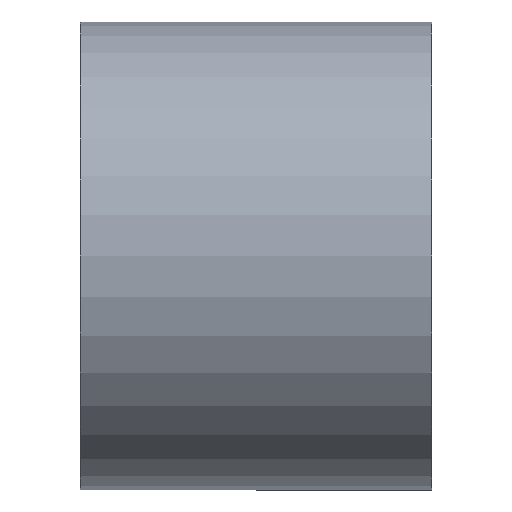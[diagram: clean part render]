
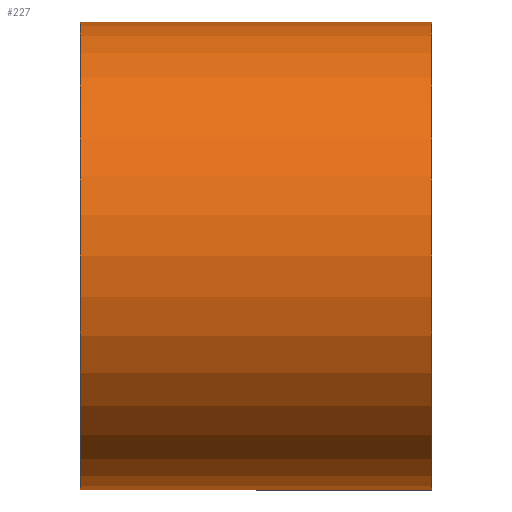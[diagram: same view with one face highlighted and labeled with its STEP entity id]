
A CAD part, front view. The second image highlights one B-rep face of the part: STEP entity #227.
In plain terms, the highlighted cylindrical face has radius 10 mm (diameter 20 mm), a partial arc.
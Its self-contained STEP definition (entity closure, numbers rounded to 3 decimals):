
#7 = FACE_OUTER_BOUND ( 'NONE', #408, .T. ) ;
#19 = CARTESIAN_POINT ( 'NONE',  ( 0., 0., -10. ) ) ;
#133 = ORIENTED_EDGE ( 'NONE', *, *, #268, .F. ) ;
#146 = LINE ( 'NONE', #766, #847 ) ;
#202 = CARTESIAN_POINT ( 'NONE',  ( 7.5, 0., -10. ) ) ;
#209 = CIRCLE ( 'NONE', #225, 10. ) ;
#223 = DIRECTION ( 'NONE',  ( -1., 0., 0. ) ) ;
#225 = AXIS2_PLACEMENT_3D ( 'NONE', #882, #801, #321 ) ;
#227 = ADVANCED_FACE ( 'NONE', ( #7 ), #625, .T. ) ;
#268 = EDGE_CURVE ( 'NONE', #453, #580, #813, .T. ) ;
#278 = CARTESIAN_POINT ( 'NONE',  ( 7.5, 0., 10. ) ) ;
#321 = DIRECTION ( 'NONE',  ( 0., 0., 1. ) ) ;
#364 = CARTESIAN_POINT ( 'NONE',  ( -7.5, 0., 0. ) ) ;
#378 = DIRECTION ( 'NONE',  ( -1., 0., 0. ) ) ;
#384 = EDGE_CURVE ( 'NONE', #814, #529, #209, .T. ) ;
#408 = EDGE_LOOP ( 'NONE', ( #593, #541, #795, #133 ) ) ;
#440 = DIRECTION ( 'NONE',  ( -1., 0., 0. ) ) ;
#441 = CARTESIAN_POINT ( 'NONE',  ( 0., 0., 0. ) ) ;
#453 = VERTEX_POINT ( 'NONE', #794 ) ;
#518 = DIRECTION ( 'NONE',  ( -1., 0., 0. ) ) ;
#529 = VERTEX_POINT ( 'NONE', #278 ) ;
#541 = ORIENTED_EDGE ( 'NONE', *, *, #384, .T. ) ;
#549 = AXIS2_PLACEMENT_3D ( 'NONE', #364, #518, #662 ) ;
#573 = LINE ( 'NONE', #19, #708 ) ;
#580 = VERTEX_POINT ( 'NONE', #657 ) ;
#593 = ORIENTED_EDGE ( 'NONE', *, *, #616, .F. ) ;
#616 = EDGE_CURVE ( 'NONE', #814, #453, #573, .T. ) ;
#625 = CYLINDRICAL_SURFACE ( 'NONE', #763, 10. ) ;
#646 = DIRECTION ( 'NONE',  ( 0., 0., 1. ) ) ;
#657 = CARTESIAN_POINT ( 'NONE',  ( -7.5, 0., 10. ) ) ;
#662 = DIRECTION ( 'NONE',  ( 0., 0., 1. ) ) ;
#708 = VECTOR ( 'NONE', #440, 1000. ) ;
#763 = AXIS2_PLACEMENT_3D ( 'NONE', #441, #378, #646 ) ;
#766 = CARTESIAN_POINT ( 'NONE',  ( 0., 0., 10. ) ) ;
#794 = CARTESIAN_POINT ( 'NONE',  ( -7.5, 0., -10. ) ) ;
#795 = ORIENTED_EDGE ( 'NONE', *, *, #843, .T. ) ;
#801 = DIRECTION ( 'NONE',  ( -1., 0., 0. ) ) ;
#813 = CIRCLE ( 'NONE', #549, 10. ) ;
#814 = VERTEX_POINT ( 'NONE', #202 ) ;
#843 = EDGE_CURVE ( 'NONE', #529, #580, #146, .T. ) ;
#847 = VECTOR ( 'NONE', #223, 1000. ) ;
#882 = CARTESIAN_POINT ( 'NONE',  ( 7.5, 0., 0. ) ) ;
